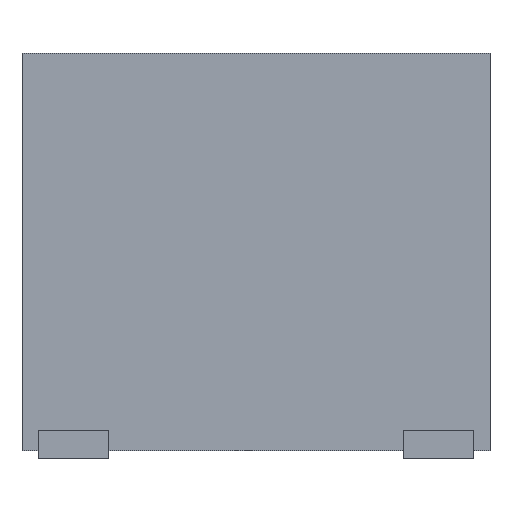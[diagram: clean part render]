
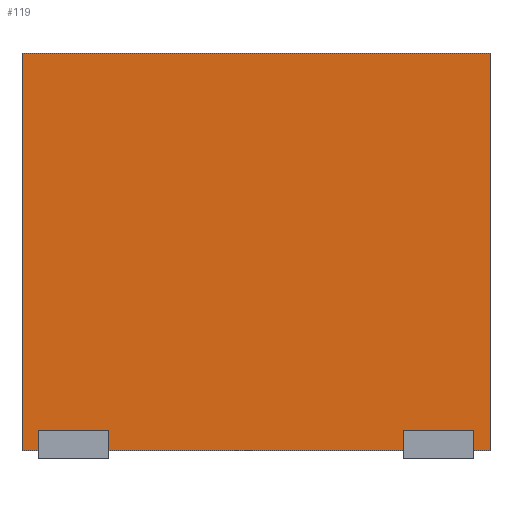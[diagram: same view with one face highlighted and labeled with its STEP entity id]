
A CAD part, left-side view. The second image highlights one B-rep face of the part: STEP entity #119.
In plain terms, the highlighted planar face has unit normal (-1, 0, 0).
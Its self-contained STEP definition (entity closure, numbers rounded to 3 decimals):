
#21 = EDGE_CURVE('',#22,#24,#26,.T.);
#22 = VERTEX_POINT('',#23);
#23 = CARTESIAN_POINT('',(-2.25,-1.6,0.08));
#24 = VERTEX_POINT('',#25);
#25 = CARTESIAN_POINT('',(-2.25,-1.6,2.8));
#26 = LINE('',#27,#28);
#27 = CARTESIAN_POINT('',(-2.25,-1.6,0.08));
#28 = VECTOR('',#29,1.);
#29 = DIRECTION('',(0.,0.,1.));
#94 = VERTEX_POINT('',#95);
#95 = CARTESIAN_POINT('',(-2.25,1.6,2.8));
#101 = EDGE_CURVE('',#102,#94,#104,.T.);
#102 = VERTEX_POINT('',#103);
#103 = CARTESIAN_POINT('',(-2.25,1.6,0.08));
#104 = LINE('',#105,#106);
#105 = CARTESIAN_POINT('',(-2.25,1.6,0.08));
#106 = VECTOR('',#107,1.);
#107 = DIRECTION('',(0.,0.,1.));
#119 = ADVANCED_FACE('',(#120),#136,.F.);
#120 = FACE_BOUND('',#121,.F.);
#121 = EDGE_LOOP('',(#122,#123,#129,#130));
#122 = ORIENTED_EDGE('',*,*,#101,.T.);
#123 = ORIENTED_EDGE('',*,*,#124,.T.);
#124 = EDGE_CURVE('',#94,#24,#125,.T.);
#125 = LINE('',#126,#127);
#126 = CARTESIAN_POINT('',(-2.25,1.6,2.8));
#127 = VECTOR('',#128,1.);
#128 = DIRECTION('',(0.,-1.,0.));
#129 = ORIENTED_EDGE('',*,*,#21,.F.);
#130 = ORIENTED_EDGE('',*,*,#131,.F.);
#131 = EDGE_CURVE('',#102,#22,#132,.T.);
#132 = LINE('',#133,#134);
#133 = CARTESIAN_POINT('',(-2.25,1.6,0.08));
#134 = VECTOR('',#135,1.);
#135 = DIRECTION('',(0.,-1.,0.));
#136 = PLANE('',#137);
#137 = AXIS2_PLACEMENT_3D('',#138,#139,#140);
#138 = CARTESIAN_POINT('',(-2.25,1.6,0.08));
#139 = DIRECTION('',(1.,0.,-0.));
#140 = DIRECTION('',(0.,-1.,0.));
